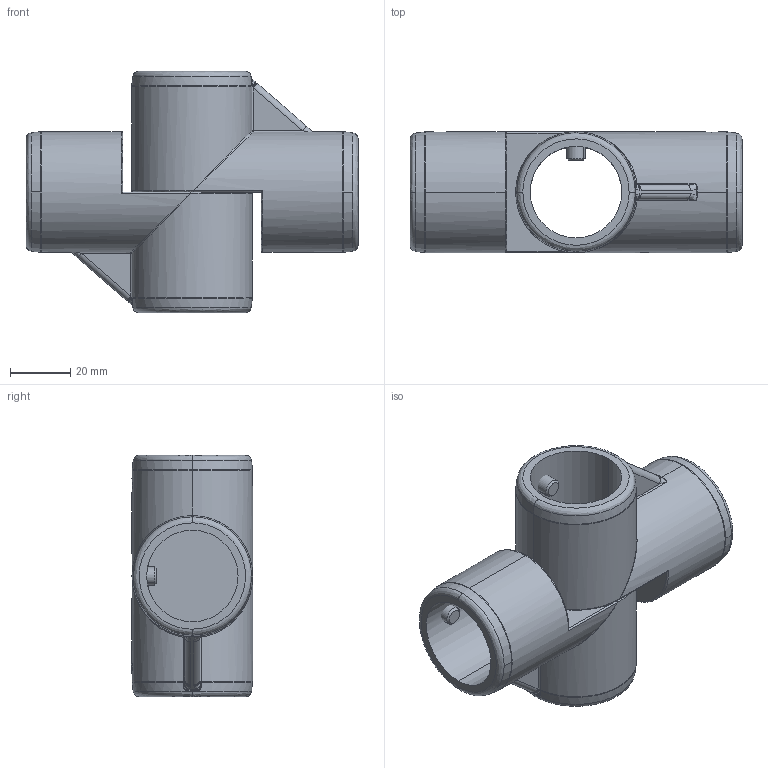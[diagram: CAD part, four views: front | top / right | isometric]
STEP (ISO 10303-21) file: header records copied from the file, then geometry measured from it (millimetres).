
FILE_DESCRIPTION (( 'STEP AP214' ), '1' );
FILE_NAME ('31000410019.STEP', '2024-09-02T13:38:51', ( '' ), ( '' ), 'SwSTEP 2.0', 'SolidWorks 2016', '' );
FILE_SCHEMA (( 'AUTOMOTIVE_DESIGN' ));
Length unit declared in the file: millimetre
Products named in the file (3): 1924f-1_1-Schalig; DIN 913  (Regelgewinde) M6 x 8; 31000410019
Assembly tree (6 placements, depth 2):
  31000410019
    1924f-1_1-Schalig  x2
    DIN 913  (Regelgewinde) M6 x 8  x4
Bounding box: 110 x 40.23 x 80 mm (x, y, z)
Volume: 95738.2 mm3; surface area: 37504.1 mm2
Topology: 6 solids, 6 shells, 202 faces, 500 edges, 304 vertices
Faces by surface type: bspline 66, plane 52, cylinder 48, cone 32, sphere 4
Entity records: 6148 total; most frequent: CARTESIAN_POINT 3358, ORIENTED_EDGE 412, DIRECTION 278, EDGE_CURVE 206, VERTEX_POINT 127, AXIS2_PLACEMENT_3D 113, B_SPLINE_CURVE_WITH_KNOTS 100, EDGE_LOOP 93
